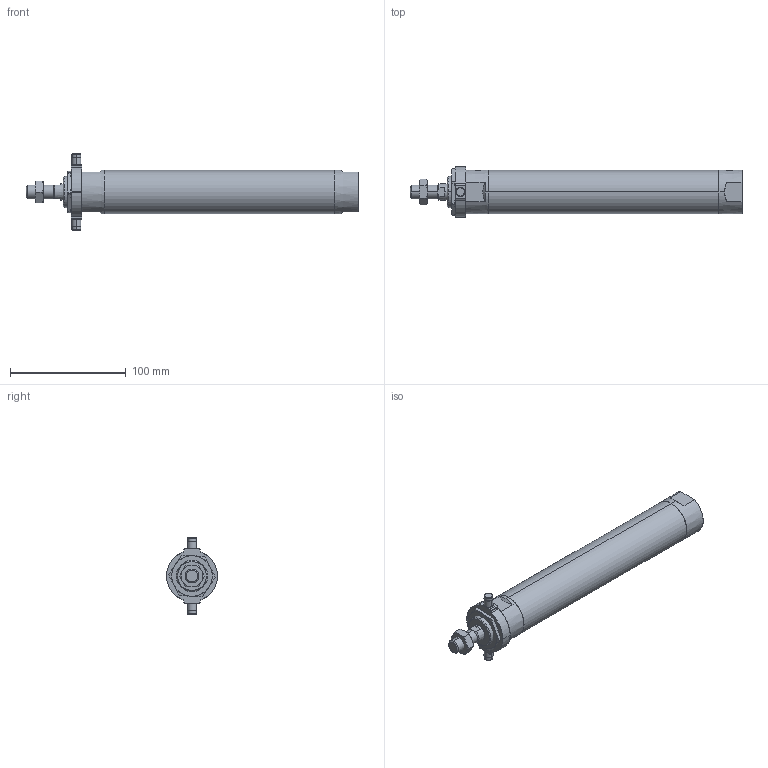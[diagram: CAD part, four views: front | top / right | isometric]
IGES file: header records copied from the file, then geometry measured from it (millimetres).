
Start section: SolidWorks IGES file using analytic representation for surfaces
Global section: file name: C:\Users\Toshiba\Desktop\JGND2-32-150-T.IGS; native system: SolidWorks 2014; preprocessor: SolidWorks 2014; author: Toshiba; date: 160804.105531; units: millimetre
Bounding box: 287 x 44 x 66 mm (x, y, z)
Surface area: 41603.2 mm2 (no closed solid volume)
Topology: 0 solids, 0 shells, 128 faces, 2076 edges, 2072 vertices
Faces by surface type: bspline 66, revolution 62
